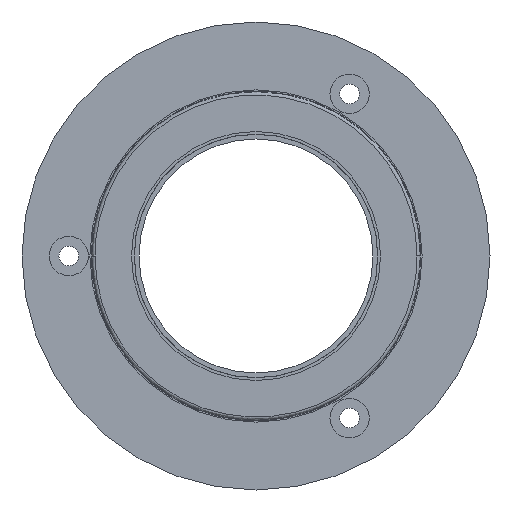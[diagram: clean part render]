
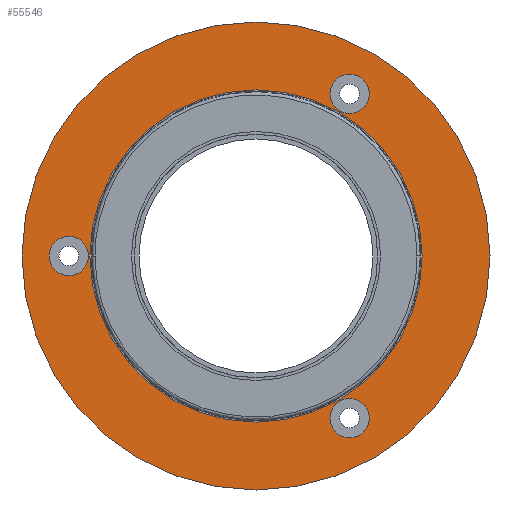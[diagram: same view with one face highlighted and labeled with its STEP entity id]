
A CAD part, left-side view. The second image highlights one B-rep face of the part: STEP entity #55546.
In plain terms, the highlighted planar face has unit normal (-1, 0, 0).
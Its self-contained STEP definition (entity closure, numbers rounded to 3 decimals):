
#534 = AXIS2_PLACEMENT_3D ( 'NONE', #51927, #74408, #58558 ) ;
#1180 = CARTESIAN_POINT ( 'NONE',  ( 2.8, 0., 0. ) ) ;
#2176 = DIRECTION ( 'NONE',  ( -1., 0., 0. ) ) ;
#2337 = CARTESIAN_POINT ( 'NONE',  ( 2.8, -10., 17.321 ) ) ;
#2800 = FACE_BOUND ( 'NONE', #4174, .T. ) ;
#4174 = EDGE_LOOP ( 'NONE', ( #54719, #22079 ) ) ;
#6711 = DIRECTION ( 'NONE',  ( 0., -1., 0. ) ) ;
#7451 = CARTESIAN_POINT ( 'NONE',  ( 2.8, 0., 0. ) ) ;
#7988 = ORIENTED_EDGE ( 'NONE', *, *, #92491, .T. ) ;
#11223 = CIRCLE ( 'NONE', #19354, 2.1 ) ;
#12997 = FACE_OUTER_BOUND ( 'NONE', #73042, .T. ) ;
#13135 = CIRCLE ( 'NONE', #82720, 2.1 ) ;
#13167 = CARTESIAN_POINT ( 'NONE',  ( 2.8, 15., 0. ) ) ;
#13796 = DIRECTION ( 'NONE',  ( 1., 0., 0. ) ) ;
#14270 = VERTEX_POINT ( 'NONE', #69194 ) ;
#15287 = CARTESIAN_POINT ( 'NONE',  ( 2.8, -7.9, 17.321 ) ) ;
#15470 = AXIS2_PLACEMENT_3D ( 'NONE', #84803, #92727, #26919 ) ;
#15562 = CARTESIAN_POINT ( 'NONE',  ( 2.8, 22.1, 0. ) ) ;
#15754 = VERTEX_POINT ( 'NONE', #15562 ) ;
#17356 = CARTESIAN_POINT ( 'NONE',  ( 2.8, -12.1, -17.321 ) ) ;
#18539 = EDGE_CURVE ( 'NONE', #81335, #59146, #66641, .T. ) ;
#18617 = FACE_BOUND ( 'NONE', #19406, .T. ) ;
#19354 = AXIS2_PLACEMENT_3D ( 'NONE', #2337, #74774, #38009 ) ;
#19406 = EDGE_LOOP ( 'NONE', ( #53141, #88944 ) ) ;
#20949 = CARTESIAN_POINT ( 'NONE',  ( 2.8, 20., 0. ) ) ;
#22079 = ORIENTED_EDGE ( 'NONE', *, *, #18539, .T. ) ;
#22492 = CARTESIAN_POINT ( 'NONE',  ( 2.8, 17.9, 0. ) ) ;
#22670 = DIRECTION ( 'NONE',  ( 1., 0., 0. ) ) ;
#25028 = VERTEX_POINT ( 'NONE', #51419 ) ;
#25200 = AXIS2_PLACEMENT_3D ( 'NONE', #20949, #42740, #6711 ) ;
#25506 = CIRCLE ( 'NONE', #25200, 2.1 ) ;
#26919 = DIRECTION ( 'NONE',  ( 0., 1., 0. ) ) ;
#27645 = VERTEX_POINT ( 'NONE', #15287 ) ;
#27757 = CIRCLE ( 'NONE', #39613, 15. ) ;
#28812 = CARTESIAN_POINT ( 'NONE',  ( 2.8, -10., -17.321 ) ) ;
#29467 = DIRECTION ( 'NONE',  ( 0., -1., 0. ) ) ;
#30763 = DIRECTION ( 'NONE',  ( 0., -1., 0. ) ) ;
#32820 = EDGE_CURVE ( 'NONE', #59146, #81335, #27757, .T. ) ;
#33170 = CARTESIAN_POINT ( 'NONE',  ( 2.8, -10., -17.321 ) ) ;
#34463 = AXIS2_PLACEMENT_3D ( 'NONE', #60028, #2176, #39092 ) ;
#34493 = CARTESIAN_POINT ( 'NONE',  ( 2.8, -10., 17.321 ) ) ;
#34921 = VERTEX_POINT ( 'NONE', #53130 ) ;
#37399 = CARTESIAN_POINT ( 'NONE',  ( 2.8, 20., 0. ) ) ;
#38009 = DIRECTION ( 'NONE',  ( 0., -1., 0. ) ) ;
#39092 = DIRECTION ( 'NONE',  ( 0., -1., 0. ) ) ;
#39613 = AXIS2_PLACEMENT_3D ( 'NONE', #1180, #22670, #52675 ) ;
#42740 = DIRECTION ( 'NONE',  ( 1., 0., 0. ) ) ;
#44965 = CIRCLE ( 'NONE', #53651, 2.1 ) ;
#45048 = AXIS2_PLACEMENT_3D ( 'NONE', #34493, #85160, #29467 ) ;
#48206 = EDGE_CURVE ( 'NONE', #14270, #25028, #91956, .T. ) ;
#49237 = AXIS2_PLACEMENT_3D ( 'NONE', #7451, #13796, #65302 ) ;
#49868 = EDGE_LOOP ( 'NONE', ( #80300, #72845 ) ) ;
#51419 = CARTESIAN_POINT ( 'NONE',  ( 2.8, 25., 0. ) ) ;
#51771 = EDGE_CURVE ( 'NONE', #27645, #34921, #11223, .T. ) ;
#51927 = CARTESIAN_POINT ( 'NONE',  ( 2.8, 0., 0. ) ) ;
#52675 = DIRECTION ( 'NONE',  ( 0., 1., 0. ) ) ;
#53130 = CARTESIAN_POINT ( 'NONE',  ( 2.8, -12.1, 17.321 ) ) ;
#53141 = ORIENTED_EDGE ( 'NONE', *, *, #60725, .T. ) ;
#53651 = AXIS2_PLACEMENT_3D ( 'NONE', #28812, #79439, #86730 ) ;
#54719 = ORIENTED_EDGE ( 'NONE', *, *, #32820, .T. ) ;
#54912 = EDGE_CURVE ( 'NONE', #70534, #64503, #85465, .T. ) ;
#55546 = ADVANCED_FACE ( 'NONE', ( #12997, #2800, #18617, #85379, #66135 ), #89440, .T. ) ;
#58558 = DIRECTION ( 'NONE',  ( 0., 1., 0. ) ) ;
#59146 = VERTEX_POINT ( 'NONE', #13167 ) ;
#60028 = CARTESIAN_POINT ( 'NONE',  ( 2.8, 15., 0. ) ) ;
#60581 = AXIS2_PLACEMENT_3D ( 'NONE', #33170, #62007, #90170 ) ;
#60725 = EDGE_CURVE ( 'NONE', #34921, #27645, #85675, .T. ) ;
#62007 = DIRECTION ( 'NONE',  ( 1., 0., 0. ) ) ;
#64503 = VERTEX_POINT ( 'NONE', #17356 ) ;
#65126 = CARTESIAN_POINT ( 'NONE',  ( 2.8, -15., 0. ) ) ;
#65241 = ORIENTED_EDGE ( 'NONE', *, *, #73326, .T. ) ;
#65302 = DIRECTION ( 'NONE',  ( 0., 1., 0. ) ) ;
#66135 = FACE_BOUND ( 'NONE', #80131, .T. ) ;
#66241 = DIRECTION ( 'NONE',  ( 1., 0., 0. ) ) ;
#66641 = CIRCLE ( 'NONE', #49237, 15. ) ;
#69194 = CARTESIAN_POINT ( 'NONE',  ( 2.8, -25., 0. ) ) ;
#70534 = VERTEX_POINT ( 'NONE', #78283 ) ;
#72845 = ORIENTED_EDGE ( 'NONE', *, *, #54912, .T. ) ;
#73042 = EDGE_LOOP ( 'NONE', ( #65241, #90514 ) ) ;
#73326 = EDGE_CURVE ( 'NONE', #25028, #14270, #92638, .T. ) ;
#73541 = EDGE_CURVE ( 'NONE', #64503, #70534, #44965, .T. ) ;
#74408 = DIRECTION ( 'NONE',  ( -1., 0., 0. ) ) ;
#74774 = DIRECTION ( 'NONE',  ( 1., 0., 0. ) ) ;
#78283 = CARTESIAN_POINT ( 'NONE',  ( 2.8, -7.9, -17.321 ) ) ;
#79439 = DIRECTION ( 'NONE',  ( 1., 0., 0. ) ) ;
#80131 = EDGE_LOOP ( 'NONE', ( #7988, #83853 ) ) ;
#80300 = ORIENTED_EDGE ( 'NONE', *, *, #73541, .T. ) ;
#81335 = VERTEX_POINT ( 'NONE', #65126 ) ;
#82720 = AXIS2_PLACEMENT_3D ( 'NONE', #37399, #66241, #30763 ) ;
#83853 = ORIENTED_EDGE ( 'NONE', *, *, #91949, .T. ) ;
#84803 = CARTESIAN_POINT ( 'NONE',  ( 2.8, 0., 0. ) ) ;
#85160 = DIRECTION ( 'NONE',  ( 1., 0., 0. ) ) ;
#85379 = FACE_BOUND ( 'NONE', #49868, .T. ) ;
#85465 = CIRCLE ( 'NONE', #60581, 2.1 ) ;
#85675 = CIRCLE ( 'NONE', #45048, 2.1 ) ;
#86730 = DIRECTION ( 'NONE',  ( 0., -1., 0. ) ) ;
#86911 = VERTEX_POINT ( 'NONE', #22492 ) ;
#88944 = ORIENTED_EDGE ( 'NONE', *, *, #51771, .T. ) ;
#89440 = PLANE ( 'NONE',  #34463 ) ;
#90170 = DIRECTION ( 'NONE',  ( 0., -1., 0. ) ) ;
#90514 = ORIENTED_EDGE ( 'NONE', *, *, #48206, .T. ) ;
#91949 = EDGE_CURVE ( 'NONE', #15754, #86911, #13135, .T. ) ;
#91956 = CIRCLE ( 'NONE', #534, 25. ) ;
#92491 = EDGE_CURVE ( 'NONE', #86911, #15754, #25506, .T. ) ;
#92638 = CIRCLE ( 'NONE', #15470, 25. ) ;
#92727 = DIRECTION ( 'NONE',  ( -1., 0., 0. ) ) ;
